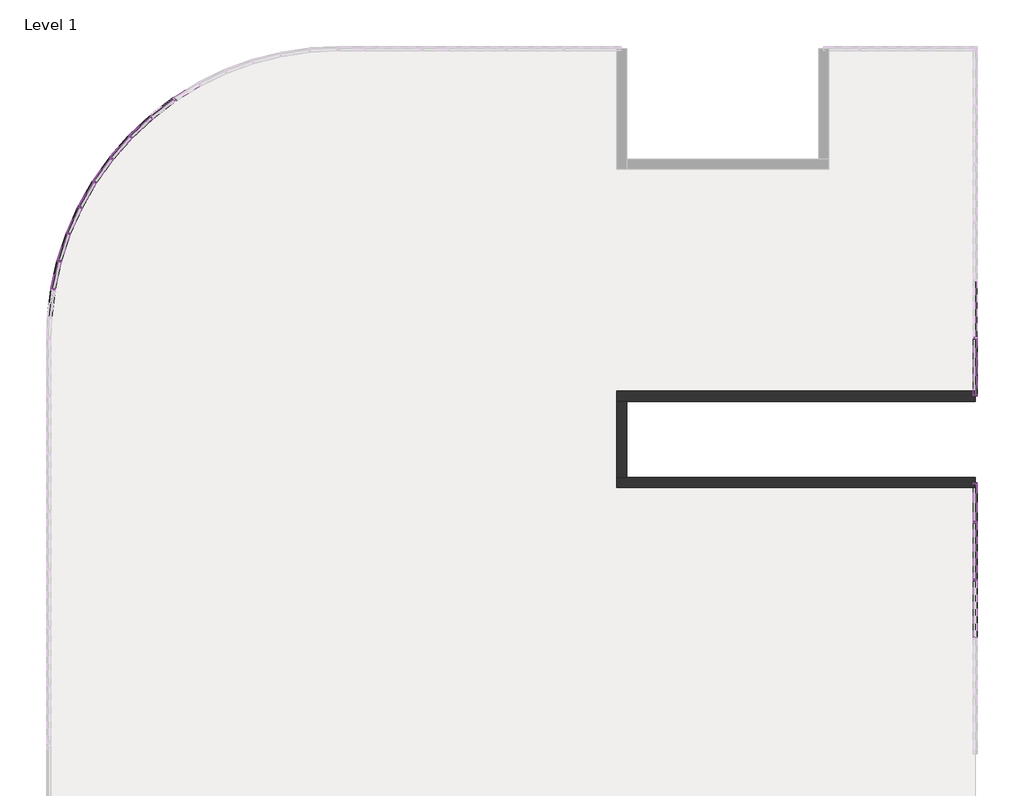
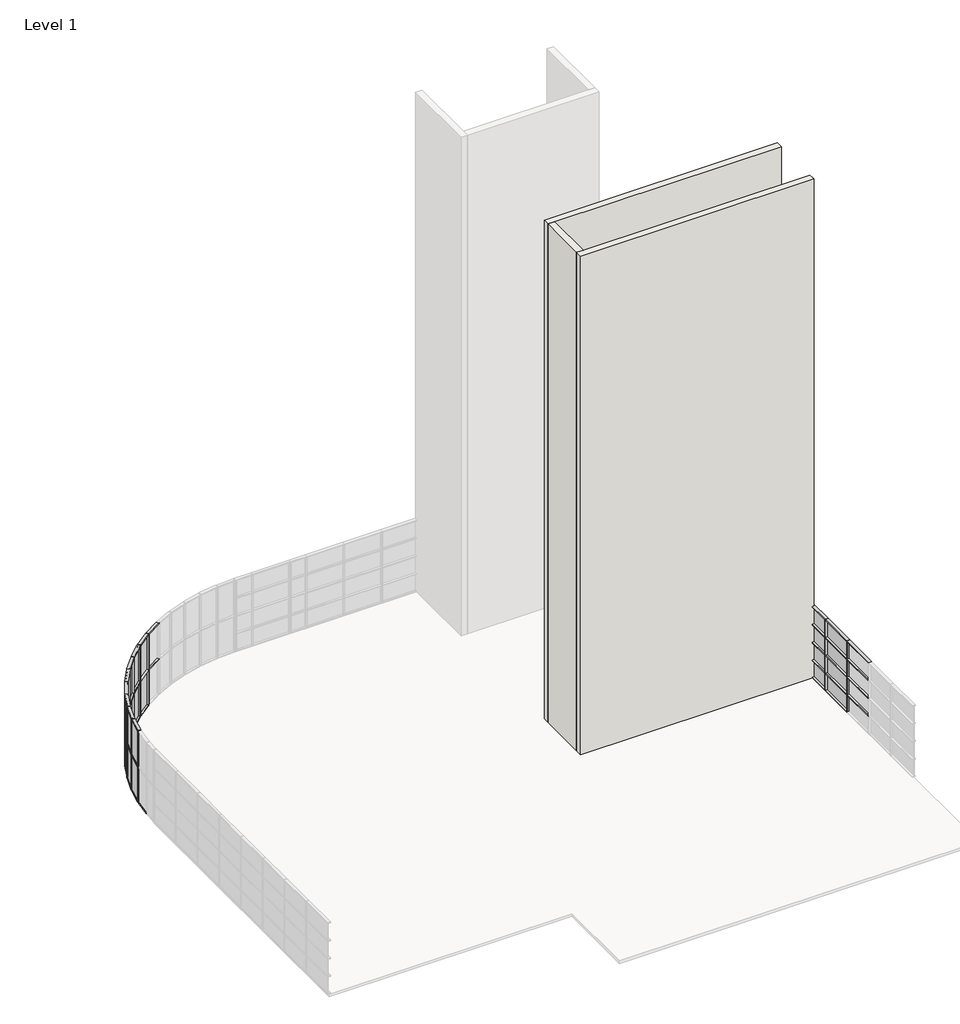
# One storey, part 4 of 6: 84 members, 32 plates, 3 walls.
"""IFC4 building model written with IfcOpenShell, lengths in millimetres."""

from ifc_helpers import new_model, si_unit, origin, origin_with_axes, place, context, project, spatial, polyline, outline, extrude, faceted_brep, transform, mapped, element, save
from components import rectangular_mullion_50_x_150mm_a053b0ca, rectangular_mullion_50_x_150mm_116cff39, rectangular_mullion_50_x_150mm_aa47fe12, rectangular_mullion_50_x_150mm_3a148f0f, rectangular_mullion_50_x_150mm_a91aaa2b, rectangular_mullion_50_x_150mm_12a430f9, rectangular_mullion_50_x_150mm_25f32059, rectangular_mullion_50_x_150mm_a54f4cf2, rectangular_mullion_50_x_150mm_5fc4eb71, rectangular_mullion_50_x_150mm_5a5a0db4, system_panel_glazed_92d57a36, system_panel_glazed_751a585c, system_panel_glazed_28c32ad2, system_panel_glazed_08de6f5f, system_panel_glazed_883c1928, system_panel_glazed_b9387e44, system_panel_glazed_42f259ca, system_panel_glazed_8ec8f306

model = new_model("IFC4")

# Units and contexts
model_context = context("Model", 3, world=origin())
ifc_project = project(units=[si_unit("LENGTHUNIT", "METRE", prefix="MILLI")], contexts=[model_context])

# Site, building, storey
site = spatial("IfcSite", under=ifc_project)
building = spatial("IfcBuilding", under=site)
storey = spatial("IfcBuildingStorey", under=building, Name="Level 1", Elevation=0.0)

# Members
placement = place(None, origin())
rectangular_mullion_50_x_150mm_shape = rectangular_mullion_50_x_150mm_a053b0ca(model_context)
element("IfcMember", 1, ObjectType="Rectangular Mullion : 50 x 150mm", at=placement, inside=storey, context=model_context, shape_type="MappedRepresentation", body=[
    mapped(rectangular_mullion_50_x_150mm_shape, transform((13503.2660975, -1624.0160434, 1025.0), x_axis=(0.0, 1.0, 0.0), y_axis=(1.0, 0.0, 0.0), z_axis=(0.0, 0.0, -0.9999999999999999))),
])
element("IfcMember", 2, ObjectType="Rectangular Mullion : 50 x 150mm", at=placement, inside=storey, context=model_context, shape_type="MappedRepresentation", body=[
    mapped(rectangular_mullion_50_x_150mm_shape, transform((13503.2660975, -1624.0160434, 2025.0), x_axis=(0.0, 1.0, 0.0), y_axis=(1.0, 0.0, 0.0), z_axis=(0.0, 0.0, -0.9999999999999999))),
])
element("IfcMember", 3, ObjectType="Rectangular Mullion : 50 x 150mm", at=placement, inside=storey, context=model_context, shape_type="MappedRepresentation", body=[
    mapped(rectangular_mullion_50_x_150mm_shape, transform((13503.2660975, -1624.0160434, 3025.0), x_axis=(0.0, 1.0, 0.0), y_axis=(1.0, 0.0, 0.0), z_axis=(0.0, 0.0, -1.0))),
])
element("IfcMember", 4, ObjectType="Rectangular Mullion : 50 x 150mm", at=placement, inside=storey, context=model_context, shape_type="MappedRepresentation", body=[
    mapped(rectangular_mullion_50_x_150mm_shape, transform((13503.2660975, -9988.7417365, 1025.0), x_axis=(0.0, 1.0, 0.0), y_axis=(1.0, 0.0, 0.0), z_axis=(0.0, 0.0, -0.9999999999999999))),
])
element("IfcMember", 5, ObjectType="Rectangular Mullion : 50 x 150mm", at=placement, inside=storey, context=model_context, shape_type="MappedRepresentation", body=[
    mapped(rectangular_mullion_50_x_150mm_shape, transform((13503.2660975, -9988.7417365, 2025.0), x_axis=(0.0, 1.0, 0.0), y_axis=(1.0, 0.0, 0.0), z_axis=(0.0, 0.0, -0.9999999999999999))),
])
element("IfcMember", 6, ObjectType="Rectangular Mullion : 50 x 150mm", at=placement, inside=storey, context=model_context, shape_type="MappedRepresentation", body=[
    mapped(rectangular_mullion_50_x_150mm_shape, transform((13503.2660975, -9988.7417365, 3025.0), x_axis=(0.0, 1.0, 0.0), y_axis=(1.0, 0.0, 0.0), z_axis=(0.0, 0.0, -1.0))),
])
element("IfcMember", 7, ObjectType="Rectangular Mullion : 50 x 150mm", at=placement, inside=storey, context=model_context, shape_type="MappedRepresentation", body=[
    mapped(rectangular_mullion_50_x_150mm_shape, transform((13503.2660975, -7988.7417365, 1025.0), x_axis=(0.0, 1.0, 0.0), y_axis=(1.0, 0.0, 0.0), z_axis=(0.0, 0.0, -0.9999999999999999))),
])
element("IfcMember", 8, ObjectType="Rectangular Mullion : 50 x 150mm", at=placement, inside=storey, context=model_context, shape_type="MappedRepresentation", body=[
    mapped(rectangular_mullion_50_x_150mm_shape, transform((13503.2660975, -7988.7417365, 2025.0), x_axis=(0.0, 1.0, 0.0), y_axis=(1.0, 0.0, 0.0), z_axis=(0.0, 0.0, -0.9999999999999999))),
])
element("IfcMember", 9, ObjectType="Rectangular Mullion : 50 x 150mm", at=placement, inside=storey, context=model_context, shape_type="MappedRepresentation", body=[
    mapped(rectangular_mullion_50_x_150mm_shape, transform((13503.2660975, -7988.7417365, 3025.0), x_axis=(0.0, 1.0, 0.0), y_axis=(1.0, 0.0, 0.0), z_axis=(0.0, 0.0, -0.9999999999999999))),
])
rectangular_mullion_50_x_150mm_2_shape = rectangular_mullion_50_x_150mm_116cff39(model_context)
element("IfcMember", 10, ObjectType="Rectangular Mullion : 50 x 150mm", at=placement, inside=storey, context=model_context, shape_type="MappedRepresentation", body=[
    mapped(rectangular_mullion_50_x_150mm_2_shape, transform((13503.2660975, -1624.0160434, 50.0), x_axis=(0.0, 1.0, 0.0), y_axis=(1.0, 0.0, 0.0), z_axis=(0.0, 0.0, -1.0))),
])
element("IfcMember", 11, ObjectType="Rectangular Mullion : 50 x 150mm", at=placement, inside=storey, context=model_context, shape_type="MappedRepresentation", body=[
    mapped(rectangular_mullion_50_x_150mm_2_shape, transform((13503.2660975, -9988.7417365, 50.0), x_axis=(0.0, 1.0, 0.0), y_axis=(1.0, 0.0, 0.0), z_axis=(0.0, 0.0, -1.0))),
])
element("IfcMember", 12, ObjectType="Rectangular Mullion : 50 x 150mm", at=placement, inside=storey, context=model_context, shape_type="MappedRepresentation", body=[
    mapped(rectangular_mullion_50_x_150mm_2_shape, transform((13503.2660975, -7988.7417365, 50.0), x_axis=(0.0, 1.0, 0.0), y_axis=(1.0, 0.0, 0.0), z_axis=(0.0, 0.0, -1.0))),
])
rectangular_mullion_50_x_150mm_3_shape = rectangular_mullion_50_x_150mm_aa47fe12(model_context)
element("IfcMember", 13, ObjectType="Rectangular Mullion : 50 x 150mm", at=placement, inside=storey, context=model_context, shape_type="MappedRepresentation", body=[
    mapped(rectangular_mullion_50_x_150mm_3_shape, transform((13503.2660975, -1624.0160434, 0.0), x_axis=(0.0, 0.0, -1.0), y_axis=(1.0, 0.0, 0.0), z_axis=(0.0, -0.9999999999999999, 0.0))),
])
element("IfcMember", 14, ObjectType="Rectangular Mullion : 50 x 150mm", at=placement, inside=storey, context=model_context, shape_type="MappedRepresentation", body=[
    mapped(rectangular_mullion_50_x_150mm_3_shape, transform((13503.2660975, -9988.7417365, 0.0), x_axis=(0.0, 0.0, -1.0), y_axis=(1.0, 0.0, 0.0), z_axis=(0.0, -1.0, 0.0))),
])
rectangular_mullion_50_x_150mm_4_shape = rectangular_mullion_50_x_150mm_3a148f0f(model_context)
element("IfcMember", 15, ObjectType="Rectangular Mullion : 50 x 150mm", at=placement, inside=storey, context=model_context, shape_type="MappedRepresentation", body=[
    mapped(rectangular_mullion_50_x_150mm_4_shape, transform((13503.2660975, -1624.0160434, 1000.0), x_axis=(0.0, 0.0, 1.0), y_axis=(1.0, 0.0, 0.0), z_axis=(0.0, 1.0, 0.0))),
])
element("IfcMember", 16, ObjectType="Rectangular Mullion : 50 x 150mm", at=placement, inside=storey, context=model_context, shape_type="MappedRepresentation", body=[
    mapped(rectangular_mullion_50_x_150mm_4_shape, transform((13503.2660975, -1624.0160434, 2000.0), x_axis=(0.0, 0.0, 1.0), y_axis=(1.0, 0.0, 0.0), z_axis=(0.0, 1.0, 0.0))),
])
element("IfcMember", 17, ObjectType="Rectangular Mullion : 50 x 150mm", at=placement, inside=storey, context=model_context, shape_type="MappedRepresentation", body=[
    mapped(rectangular_mullion_50_x_150mm_4_shape, transform((13503.2660975, -1624.0160434, 3000.0), x_axis=(0.0, 0.0, 1.0), y_axis=(1.0, 0.0, 0.0), z_axis=(0.0, 1.0, 0.0))),
])
element("IfcMember", 18, ObjectType="Rectangular Mullion : 50 x 150mm", at=placement, inside=storey, context=model_context, shape_type="MappedRepresentation", body=[
    mapped(rectangular_mullion_50_x_150mm_4_shape, transform((13503.2660975, -1624.0160434, 4000.0), x_axis=(0.0, 0.0, 1.0), y_axis=(1.0, 0.0, 0.0), z_axis=(0.0, 1.0, 0.0))),
])
element("IfcMember", 19, ObjectType="Rectangular Mullion : 50 x 150mm", at=placement, inside=storey, context=model_context, shape_type="MappedRepresentation", body=[
    mapped(rectangular_mullion_50_x_150mm_4_shape, transform((-14145.2241233, 6627.9266506, 2000.0), x_axis=(-0.8251942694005, -0.5648490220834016, 0.0), y_axis=(-0.5648490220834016, 0.8251942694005, 0.0), z_axis=(0.0, 0.0, -1.0))),
])
element("IfcMember", 20, ObjectType="Rectangular Mullion : 50 x 150mm", at=placement, inside=storey, context=model_context, shape_type="MappedRepresentation", body=[
    mapped(rectangular_mullion_50_x_150mm_4_shape, transform((-14941.1438033, 6022.5244181, 2000.0), x_axis=(-0.7646540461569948, -0.6444409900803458, 0.0), y_axis=(-0.6444409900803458, 0.7646540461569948, 0.0), z_axis=(0.0, 0.0, -1.0))),
])
element("IfcMember", 21, ObjectType="Rectangular Mullion : 50 x 150mm", at=placement, inside=storey, context=model_context, shape_type="MappedRepresentation", body=[
    mapped(rectangular_mullion_50_x_150mm_4_shape, transform((-15672.6193842, 5340.6567811, 2000.0), x_axis=(-0.6964672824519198, -0.7175885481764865, 0.0), y_axis=(-0.7175885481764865, 0.6964672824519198, 0.0), z_axis=(0.0, 0.0, -1.0))),
])
element("IfcMember", 22, ObjectType="Rectangular Mullion : 50 x 150mm", at=placement, inside=storey, context=model_context, shape_type="MappedRepresentation", body=[
    mapped(rectangular_mullion_50_x_150mm_4_shape, transform((-16332.3361104, 4589.1424158, 2000.0), x_axis=(-0.6213158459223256, -0.7835602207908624, 0.0), y_axis=(-0.7835602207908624, 0.6213158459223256, 0.0), z_axis=(0.0, 0.0, -1.0))),
])
element("IfcMember", 23, ObjectType="Rectangular Mullion : 50 x 150mm", at=placement, inside=storey, context=model_context, shape_type="MappedRepresentation", body=[
    mapped(rectangular_mullion_50_x_150mm_4_shape, transform((-16913.6968144, 3775.4964659, 2000.0), x_axis=(-0.539951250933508, -0.8416962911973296, 0.0), y_axis=(-0.8416962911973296, 0.539951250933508, 0.0), z_axis=(0.0, 0.0, -1.0))),
])
element("IfcMember", 24, ObjectType="Rectangular Mullion : 50 x 150mm", at=placement, inside=storey, context=model_context, shape_type="MappedRepresentation", body=[
    mapped(rectangular_mullion_50_x_150mm_4_shape, transform((-17410.8878894, 2907.8553909, 2000.0), x_axis=(-0.4531871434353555, -0.8914153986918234, 0.0), y_axis=(-0.8914153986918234, 0.4531871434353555, 0.0), z_axis=(0.0, 0.0, -1.0))),
])
element("IfcMember", 25, ObjectType="Rectangular Mullion : 50 x 150mm", at=placement, inside=storey, context=model_context, shape_type="MappedRepresentation", body=[
    mapped(rectangular_mullion_50_x_150mm_4_shape, transform((-17818.9374245, 1994.8956016, 2000.0), x_axis=(-0.3618911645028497, -0.9322203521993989, 0.0), y_axis=(-0.9322203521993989, 0.3618911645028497, 0.0), z_axis=(0.0, 0.0, -1.0))),
])
element("IfcMember", 26, ObjectType="Rectangular Mullion : 50 x 150mm", at=placement, inside=storey, context=model_context, shape_type="MappedRepresentation", body=[
    mapped(rectangular_mullion_50_x_150mm_4_shape, transform((-18133.7649243, 1045.7466958, 2000.0), x_axis=(-0.26697627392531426, -0.963703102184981, 0.0), y_axis=(-0.9637031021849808, 0.2669762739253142, 0.0), z_axis=(0.0, 0.0, -1.0))),
])
element("IfcMember", 27, ObjectType="Rectangular Mullion : 50 x 150mm", at=placement, inside=storey, context=model_context, shape_type="MappedRepresentation", body=[
    mapped(rectangular_mullion_50_x_150mm_4_shape, transform((-18352.222114, 69.9001627, 2000.0), x_axis=(-0.1693916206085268, -0.9855488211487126, 0.0), y_axis=(-0.9855488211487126, 0.1693916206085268, 0.0), z_axis=(0.0, 0.0, -1.0))),
])
element("IfcMember", 28, ObjectType="Rectangular Mullion : 50 x 150mm", at=placement, inside=storey, context=model_context, shape_type="MappedRepresentation", body=[
    mapped(rectangular_mullion_50_x_150mm_4_shape, transform((13503.2660975, -9988.7417365, 1000.0), x_axis=(0.0, 0.0, 1.0), y_axis=(1.0, 0.0, 0.0), z_axis=(0.0, 1.0, 0.0))),
])
element("IfcMember", 29, ObjectType="Rectangular Mullion : 50 x 150mm", at=placement, inside=storey, context=model_context, shape_type="MappedRepresentation", body=[
    mapped(rectangular_mullion_50_x_150mm_4_shape, transform((13503.2660975, -7988.7417365, 1000.0), x_axis=(0.0, 0.0, 1.0), y_axis=(1.0, 0.0, 0.0), z_axis=(0.0, 1.0, 0.0))),
])
element("IfcMember", 30, ObjectType="Rectangular Mullion : 50 x 150mm", at=placement, inside=storey, context=model_context, shape_type="MappedRepresentation", body=[
    mapped(rectangular_mullion_50_x_150mm_4_shape, transform((13503.2660975, -9988.7417365, 2000.0), x_axis=(0.0, 0.0, 1.0), y_axis=(1.0, 0.0, 0.0), z_axis=(0.0, 1.0, 0.0))),
])
element("IfcMember", 31, ObjectType="Rectangular Mullion : 50 x 150mm", at=placement, inside=storey, context=model_context, shape_type="MappedRepresentation", body=[
    mapped(rectangular_mullion_50_x_150mm_4_shape, transform((13503.2660975, -7988.7417365, 2000.0), x_axis=(0.0, 0.0, 1.0), y_axis=(1.0, 0.0, 0.0), z_axis=(0.0, 1.0, 0.0))),
])
element("IfcMember", 32, ObjectType="Rectangular Mullion : 50 x 150mm", at=placement, inside=storey, context=model_context, shape_type="MappedRepresentation", body=[
    mapped(rectangular_mullion_50_x_150mm_4_shape, transform((13503.2660975, -9988.7417365, 3000.0), x_axis=(0.0, 0.0, 1.0), y_axis=(1.0, 0.0, 0.0), z_axis=(0.0, 1.0, 0.0))),
])
element("IfcMember", 33, ObjectType="Rectangular Mullion : 50 x 150mm", at=placement, inside=storey, context=model_context, shape_type="MappedRepresentation", body=[
    mapped(rectangular_mullion_50_x_150mm_4_shape, transform((13503.2660975, -7988.7417365, 3000.0), x_axis=(0.0, 0.0, 1.0), y_axis=(1.0, 0.0, 0.0), z_axis=(0.0, 1.0, 0.0))),
])
element("IfcMember", 34, ObjectType="Rectangular Mullion : 50 x 150mm", at=placement, inside=storey, context=model_context, shape_type="MappedRepresentation", body=[
    mapped(rectangular_mullion_50_x_150mm_4_shape, transform((13503.2660975, -9988.7417365, 4000.0), x_axis=(0.0, 0.0, 1.0), y_axis=(1.0, 0.0, 0.0), z_axis=(0.0, 1.0, 0.0))),
])
element("IfcMember", 35, ObjectType="Rectangular Mullion : 50 x 150mm", at=placement, inside=storey, context=model_context, shape_type="MappedRepresentation", body=[
    mapped(rectangular_mullion_50_x_150mm_4_shape, transform((13503.2660975, -7988.7417365, 4000.0), x_axis=(0.0, 0.0, 1.0), y_axis=(1.0, 0.0, 0.0), z_axis=(0.0, 1.0, 0.0))),
])
element("IfcMember", 36, ObjectType="Rectangular Mullion : 50 x 150mm", at=placement, inside=storey, context=model_context, shape_type="MappedRepresentation", body=[
    mapped(rectangular_mullion_50_x_150mm_3_shape, transform((13503.2660975, -3624.0160434, 0.0), x_axis=(0.0, 0.0, -1.0), y_axis=(1.0, 0.0, 0.0), z_axis=(0.0, -1.0, 0.0))),
])
rectangular_mullion_50_x_150mm_5_shape = rectangular_mullion_50_x_150mm_a91aaa2b(model_context)
element("IfcMember", 37, ObjectType="Rectangular Mullion : 50 x 150mm", at=placement, inside=storey, context=model_context, shape_type="MappedRepresentation", body=[
    mapped(rectangular_mullion_50_x_150mm_5_shape, transform((13503.2660975, -3624.0160434, 975.0), x_axis=(0.0, -1.0, 0.0), y_axis=(1.0, 0.0, 0.0), z_axis=(0.0, 0.0, 1.0))),
])
rectangular_mullion_50_x_150mm_6_shape = rectangular_mullion_50_x_150mm_12a430f9(model_context)
element("IfcMember", 38, ObjectType="Rectangular Mullion : 50 x 150mm", at=placement, inside=storey, context=model_context, shape_type="MappedRepresentation", body=[
    mapped(rectangular_mullion_50_x_150mm_6_shape, transform((13503.2660975, -3624.0160434, 1975.0), x_axis=(0.0, -1.0, 0.0), y_axis=(1.0, 0.0, 0.0), z_axis=(0.0, 0.0, 0.9999999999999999))),
])
element("IfcMember", 39, ObjectType="Rectangular Mullion : 50 x 150mm", at=placement, inside=storey, context=model_context, shape_type="MappedRepresentation", body=[
    mapped(rectangular_mullion_50_x_150mm_6_shape, transform((13503.2660975, -3624.0160434, 2975.0), x_axis=(0.0, -1.0, 0.0), y_axis=(1.0, 0.0, 0.0), z_axis=(0.0, 0.0, 0.9999999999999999))),
])
element("IfcMember", 40, ObjectType="Rectangular Mullion : 50 x 150mm", at=placement, inside=storey, context=model_context, shape_type="MappedRepresentation", body=[
    mapped(rectangular_mullion_50_x_150mm_6_shape, transform((13503.2660975, -3624.0160434, 3975.0), x_axis=(0.0, -1.0, 0.0), y_axis=(1.0, 0.0, 0.0), z_axis=(0.0, 0.0, 1.0))),
])
element("IfcMember", 41, ObjectType="Rectangular Mullion : 50 x 150mm", at=placement, inside=storey, context=model_context, shape_type="MappedRepresentation", body=[
    mapped(rectangular_mullion_50_x_150mm_6_shape, transform((13503.2660975, -6624.0160434, 1025.0), x_axis=(0.0, 1.0, 0.0), y_axis=(1.0, 0.0, 0.0), z_axis=(0.0, 0.0, -0.9999999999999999))),
])
element("IfcMember", 42, ObjectType="Rectangular Mullion : 50 x 150mm", at=placement, inside=storey, context=model_context, shape_type="MappedRepresentation", body=[
    mapped(rectangular_mullion_50_x_150mm_6_shape, transform((13503.2660975, -6624.0160434, 2025.0), x_axis=(0.0, 1.0, 0.0), y_axis=(1.0, 0.0, 0.0), z_axis=(0.0, 0.0, -0.9999999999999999))),
])
element("IfcMember", 43, ObjectType="Rectangular Mullion : 50 x 150mm", at=placement, inside=storey, context=model_context, shape_type="MappedRepresentation", body=[
    mapped(rectangular_mullion_50_x_150mm_6_shape, transform((13503.2660975, -6624.0160434, 3025.0), x_axis=(0.0, 1.0, 0.0), y_axis=(1.0, 0.0, 0.0), z_axis=(0.0, 0.0, -1.0))),
])
element("IfcMember", 44, ObjectType="Rectangular Mullion : 50 x 150mm", at=placement, inside=storey, context=model_context, shape_type="MappedRepresentation", body=[
    mapped(rectangular_mullion_50_x_150mm_5_shape, transform((13503.2660975, -6624.0160434, 50.0), x_axis=(0.0, 1.0, 0.0), y_axis=(1.0, 0.0, 0.0), z_axis=(0.0, 0.0, -1.0))),
])
element("IfcMember", 45, ObjectType="Rectangular Mullion : 50 x 150mm", at=placement, inside=storey, context=model_context, shape_type="MappedRepresentation", body=[
    mapped(rectangular_mullion_50_x_150mm_4_shape, transform((-14145.2241233, 6627.9266506, 0.0), x_axis=(-0.8251942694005, -0.5648490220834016, 0.0), y_axis=(-0.5648490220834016, 0.8251942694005, 0.0), z_axis=(0.0, 0.0, -1.0))),
])
element("IfcMember", 46, ObjectType="Rectangular Mullion : 50 x 150mm", at=placement, inside=storey, context=model_context, shape_type="MappedRepresentation", body=[
    mapped(rectangular_mullion_50_x_150mm_4_shape, transform((-14941.1438033, 6022.5244181, 0.0), x_axis=(-0.7646540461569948, -0.6444409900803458, 0.0), y_axis=(-0.6444409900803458, 0.7646540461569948, 0.0), z_axis=(0.0, 0.0, -1.0))),
])
element("IfcMember", 47, ObjectType="Rectangular Mullion : 50 x 150mm", at=placement, inside=storey, context=model_context, shape_type="MappedRepresentation", body=[
    mapped(rectangular_mullion_50_x_150mm_4_shape, transform((-15672.6193842, 5340.6567811, 0.0), x_axis=(-0.6964672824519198, -0.7175885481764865, 0.0), y_axis=(-0.7175885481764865, 0.6964672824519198, 0.0), z_axis=(0.0, 0.0, -1.0))),
])
element("IfcMember", 48, ObjectType="Rectangular Mullion : 50 x 150mm", at=placement, inside=storey, context=model_context, shape_type="MappedRepresentation", body=[
    mapped(rectangular_mullion_50_x_150mm_4_shape, transform((-16332.3361104, 4589.1424158, 0.0), x_axis=(-0.6213158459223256, -0.7835602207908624, 0.0), y_axis=(-0.7835602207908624, 0.6213158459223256, 0.0), z_axis=(0.0, 0.0, -1.0))),
])
element("IfcMember", 49, ObjectType="Rectangular Mullion : 50 x 150mm", at=placement, inside=storey, context=model_context, shape_type="MappedRepresentation", body=[
    mapped(rectangular_mullion_50_x_150mm_4_shape, transform((-16913.6968144, 3775.4964659, 0.0), x_axis=(-0.539951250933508, -0.8416962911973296, 0.0), y_axis=(-0.8416962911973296, 0.539951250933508, 0.0), z_axis=(0.0, 0.0, -1.0))),
])
element("IfcMember", 50, ObjectType="Rectangular Mullion : 50 x 150mm", at=placement, inside=storey, context=model_context, shape_type="MappedRepresentation", body=[
    mapped(rectangular_mullion_50_x_150mm_4_shape, transform((-17410.8878894, 2907.8553909, 0.0), x_axis=(-0.4531871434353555, -0.8914153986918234, 0.0), y_axis=(-0.8914153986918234, 0.4531871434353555, 0.0), z_axis=(0.0, 0.0, -1.0))),
])
element("IfcMember", 51, ObjectType="Rectangular Mullion : 50 x 150mm", at=placement, inside=storey, context=model_context, shape_type="MappedRepresentation", body=[
    mapped(rectangular_mullion_50_x_150mm_4_shape, transform((-17818.9374245, 1994.8956016, 0.0), x_axis=(-0.3618911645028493, -0.932220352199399, 0.0), y_axis=(-0.932220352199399, 0.3618911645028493, 0.0), z_axis=(0.0, 0.0, -1.0))),
])
element("IfcMember", 52, ObjectType="Rectangular Mullion : 50 x 150mm", at=placement, inside=storey, context=model_context, shape_type="MappedRepresentation", body=[
    mapped(rectangular_mullion_50_x_150mm_4_shape, transform((-18133.7649243, 1045.7466958, 0.0), x_axis=(-0.2669762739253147, -0.9637031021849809, 0.0), y_axis=(-0.9637031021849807, 0.26697627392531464, 0.0), z_axis=(0.0, 0.0, -1.0))),
])
element("IfcMember", 53, ObjectType="Rectangular Mullion : 50 x 150mm", at=placement, inside=storey, context=model_context, shape_type="MappedRepresentation", body=[
    mapped(rectangular_mullion_50_x_150mm_4_shape, transform((-18352.222114, 69.9001627, 0.0), x_axis=(-0.1693916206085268, -0.9855488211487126, 0.0), y_axis=(-0.9855488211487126, 0.1693916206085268, 0.0), z_axis=(0.0, 0.0, -1.0))),
])
rectangular_mullion_50_x_150mm_7_shape = rectangular_mullion_50_x_150mm_25f32059(model_context)
element("IfcMember", 54, ObjectType="Rectangular Mullion : 50 x 150mm", at=placement, inside=storey, context=model_context, shape_type="MappedRepresentation", body=[
    mapped(rectangular_mullion_50_x_150mm_7_shape, transform((-18346.7606842, 94.296326, 4000.0), x_axis=(0.0, 0.0, 0.9999999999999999), y_axis=(-0.9758465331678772, 0.21845718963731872, 0.0), z_axis=(-0.2184571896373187, -0.9758465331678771, 0.0))),
])
element("IfcMember", 55, ObjectType="Rectangular Mullion : 50 x 150mm", at=placement, inside=storey, context=model_context, shape_type="MappedRepresentation", body=[
    mapped(rectangular_mullion_50_x_150mm_7_shape, transform((-14123.9140088, 6640.9987207, 4000.0), x_axis=(0.0, 0.0, 1.0), y_axis=(-0.5228828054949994, 0.8524045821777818, 0.0), z_axis=(-0.8524045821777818, -0.5228828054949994, 0.0))),
])
element("IfcMember", 56, ObjectType="Rectangular Mullion : 50 x 150mm", at=placement, inside=storey, context=model_context, shape_type="MappedRepresentation", body=[
    mapped(rectangular_mullion_50_x_150mm_7_shape, transform((-14921.2458113, 6037.6594739, 4000.0), x_axis=(0.0, 0.0, 1.0), y_axis=(-0.6054022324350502, 0.795919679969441, 0.0), z_axis=(-0.795919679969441, -0.6054022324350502, 0.0))),
])
element("IfcMember", 57, ObjectType="Rectangular Mullion : 50 x 150mm", at=placement, inside=storey, context=model_context, shape_type="MappedRepresentation", body=[
    mapped(rectangular_mullion_50_x_150mm_7_shape, transform((-15654.3324947, 5357.703472, 4000.0), x_axis=(0.0, 0.0, 1.0), y_axis=(-0.6818676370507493, 0.731475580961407, 0.0), z_axis=(-0.731475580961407, -0.6818676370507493, 0.0))),
])
element("IfcMember", 58, ObjectType="Rectangular Mullion : 50 x 150mm", at=placement, inside=storey, context=model_context, shape_type="MappedRepresentation", body=[
    mapped(rectangular_mullion_50_x_150mm_7_shape, transform((-16315.8431922, 4607.9302749, 4000.0), x_axis=(0.0, 0.0, 1.0), y_axis=(-0.7515143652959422, 0.6597167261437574, 0.0), z_axis=(-0.6597167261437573, -0.751514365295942, 0.0))),
])
element("IfcMember", 59, ObjectType="Rectangular Mullion : 50 x 150mm", at=placement, inside=storey, context=model_context, shape_type="MappedRepresentation", body=[
    mapped(rectangular_mullion_50_x_150mm_7_shape, transform((-16899.1627968, 3795.8376146, 4000.0), x_axis=(0.0, 0.0, 1.0), y_axis=(-0.8136459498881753, 0.5813607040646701, 0.0), z_axis=(-0.5813607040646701, -0.8136459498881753, 0.0))),
])
element("IfcMember", 60, ObjectType="Rectangular Mullion : 50 x 150mm", at=placement, inside=storey, context=model_context, shape_type="MappedRepresentation", body=[
    mapped(rectangular_mullion_50_x_150mm_7_shape, transform((-17398.4581125, 2929.5464178, 4000.0), x_axis=(0.0, 0.0, 0.9999999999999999), y_axis=(-0.8676410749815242, 0.49719107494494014, 0.0), z_axis=(-0.4971910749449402, -0.8676410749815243, 0.0))),
])
element("IfcMember", 61, ObjectType="Rectangular Mullion : 50 x 150mm", at=placement, inside=storey, context=model_context, shape_type="MappedRepresentation", body=[
    mapped(rectangular_mullion_50_x_150mm_7_shape, transform((-17808.7361861, 2017.7195963, 4000.0), x_axis=(0.0, 0.0, 0.9999999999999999), y_axis=(-0.9129597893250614, 0.40804953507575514, 0.0), z_axis=(-0.4080495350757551, -0.9129597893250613, 0.0))),
])
element("IfcMember", 62, ObjectType="Rectangular Mullion : 50 x 150mm", at=placement, inside=storey, context=model_context, shape_type="MappedRepresentation", body=[
    mapped(rectangular_mullion_50_x_150mm_7_shape, transform((-18125.8942368, 1069.4754185, 4000.0), x_axis=(0.0, 0.0, 1.0), y_axis=(-0.9491489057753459, 0.31482749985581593, 0.0), z_axis=(-0.3148274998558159, -0.9491489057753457, 0.0))),
])
element("IfcMember", 63, ObjectType="Rectangular Mullion : 50 x 150mm", at=placement, inside=storey, context=model_context, shape_type="MappedRepresentation", body=[
    mapped(rectangular_mullion_50_x_150mm_7_shape, transform((-16899.1627968, 3795.8376146, 2000.0), x_axis=(0.0, 0.0, 1.0), y_axis=(-0.8136459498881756, 0.5813607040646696, 0.0), z_axis=(-0.5813607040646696, -0.8136459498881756, 0.0))),
])
element("IfcMember", 64, ObjectType="Rectangular Mullion : 50 x 150mm", at=placement, inside=storey, context=model_context, shape_type="MappedRepresentation", body=[
    mapped(rectangular_mullion_50_x_150mm_7_shape, transform((-17398.4581125, 2929.5464178, 2000.0), x_axis=(0.0, 0.0, 0.9999999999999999), y_axis=(-0.8676410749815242, 0.49719107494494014, 0.0), z_axis=(-0.4971910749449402, -0.8676410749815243, 0.0))),
])
element("IfcMember", 65, ObjectType="Rectangular Mullion : 50 x 150mm", at=placement, inside=storey, context=model_context, shape_type="MappedRepresentation", body=[
    mapped(rectangular_mullion_50_x_150mm_7_shape, transform((-17808.7361861, 2017.7195963, 2000.0), x_axis=(0.0, 0.0, 0.9999999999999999), y_axis=(-0.9129597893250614, 0.40804953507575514, 0.0), z_axis=(-0.4080495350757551, -0.9129597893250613, 0.0))),
])
element("IfcMember", 66, ObjectType="Rectangular Mullion : 50 x 150mm", at=placement, inside=storey, context=model_context, shape_type="MappedRepresentation", body=[
    mapped(rectangular_mullion_50_x_150mm_7_shape, transform((-18125.8942368, 1069.4754185, 2000.0), x_axis=(0.0, 0.0, 1.0), y_axis=(-0.9491489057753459, 0.31482749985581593, 0.0), z_axis=(-0.3148274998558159, -0.9491489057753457, 0.0))),
])
element("IfcMember", 67, ObjectType="Rectangular Mullion : 50 x 150mm", at=placement, inside=storey, context=model_context, shape_type="MappedRepresentation", body=[
    mapped(rectangular_mullion_50_x_150mm_7_shape, transform((-18346.7606842, 94.296326, 2000.0), x_axis=(0.0, 0.0, 0.9999999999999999), y_axis=(-0.9758465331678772, 0.21845718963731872, 0.0), z_axis=(-0.2184571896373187, -0.9758465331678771, 0.0))),
])
element("IfcMember", 68, ObjectType="Rectangular Mullion : 50 x 150mm", at=placement, inside=storey, context=model_context, shape_type="MappedRepresentation", body=[
    mapped(rectangular_mullion_50_x_150mm_7_shape, transform((-14123.9140088, 6640.9987207, 2000.0), x_axis=(0.0, 0.0, 1.0), y_axis=(-0.5228828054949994, 0.8524045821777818, 0.0), z_axis=(-0.8524045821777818, -0.5228828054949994, 0.0))),
])
element("IfcMember", 69, ObjectType="Rectangular Mullion : 50 x 150mm", at=placement, inside=storey, context=model_context, shape_type="MappedRepresentation", body=[
    mapped(rectangular_mullion_50_x_150mm_7_shape, transform((-15654.3324947, 5357.703472, 2000.0), x_axis=(0.0, 0.0, 1.0), y_axis=(-0.6818676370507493, 0.731475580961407, 0.0), z_axis=(-0.731475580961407, -0.6818676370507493, 0.0))),
])
element("IfcMember", 70, ObjectType="Rectangular Mullion : 50 x 150mm", at=placement, inside=storey, context=model_context, shape_type="MappedRepresentation", body=[
    mapped(rectangular_mullion_50_x_150mm_7_shape, transform((-16315.8431922, 4607.9302749, 2000.0), x_axis=(0.0, 0.0, 1.0), y_axis=(-0.7515143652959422, 0.6597167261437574, 0.0), z_axis=(-0.6597167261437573, -0.751514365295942, 0.0))),
])
rectangular_mullion_50_x_150mm_8_shape = rectangular_mullion_50_x_150mm_a54f4cf2(model_context)
element("IfcMember", 71, ObjectType="Rectangular Mullion : 50 x 150mm", at=placement, inside=storey, context=model_context, shape_type="MappedRepresentation", body=[
    mapped(rectangular_mullion_50_x_150mm_8_shape, transform((-14165.1221153, 6612.7915948, 0.0), x_axis=(0.0, 0.0, -1.0), y_axis=(-0.6054022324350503, 0.7959196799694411, 0.0), z_axis=(0.7959196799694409, 0.6054022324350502, 0.0))),
])
element("IfcMember", 72, ObjectType="Rectangular Mullion : 50 x 150mm", at=placement, inside=storey, context=model_context, shape_type="MappedRepresentation", body=[
    mapped(rectangular_mullion_50_x_150mm_8_shape, transform((-14959.4306928, 6005.4777272, 0.0), x_axis=(0.0, 0.0, -1.0), y_axis=(-0.6818676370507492, 0.7314755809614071, 0.0), z_axis=(0.731475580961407, 0.681867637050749, 0.0))),
])
element("IfcMember", 73, ObjectType="Rectangular Mullion : 50 x 150mm", at=placement, inside=storey, context=model_context, shape_type="MappedRepresentation", body=[
    mapped(rectangular_mullion_50_x_150mm_8_shape, transform((-15689.1123024, 5321.868922, 0.0), x_axis=(0.0, 0.0, -1.0), y_axis=(-0.7515143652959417, 0.6597167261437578, 0.0), z_axis=(0.6597167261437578, 0.7515143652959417, 0.0))),
])
element("IfcMember", 74, ObjectType="Rectangular Mullion : 50 x 150mm", at=placement, inside=storey, context=model_context, shape_type="MappedRepresentation", body=[
    mapped(rectangular_mullion_50_x_150mm_8_shape, transform((-16346.870128, 4568.801267, 0.0), x_axis=(0.0, 0.0, -1.0), y_axis=(-0.8136459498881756, 0.58136070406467, 0.0), z_axis=(0.5813607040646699, 0.8136459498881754, 0.0))),
])
element("IfcMember", 75, ObjectType="Rectangular Mullion : 50 x 150mm", at=placement, inside=storey, context=model_context, shape_type="MappedRepresentation", body=[
    mapped(rectangular_mullion_50_x_150mm_8_shape, transform((-16926.1265913, 3753.805439, 0.0), x_axis=(0.0, 0.0, -1.0), y_axis=(-0.8676410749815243, 0.4971910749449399, 0.0), z_axis=(0.4971910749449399, 0.8676410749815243, 0.0))),
])
element("IfcMember", 76, ObjectType="Rectangular Mullion : 50 x 150mm", at=placement, inside=storey, context=model_context, shape_type="MappedRepresentation", body=[
    mapped(rectangular_mullion_50_x_150mm_8_shape, transform((-17421.0891278, 2885.0313962, 0.0), x_axis=(0.0, 0.0, -1.0), y_axis=(-0.9129597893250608, 0.4080495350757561, 0.0), z_axis=(0.4080495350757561, 0.9129597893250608, 0.0))),
])
element("IfcMember", 77, ObjectType="Rectangular Mullion : 50 x 150mm", at=placement, inside=storey, context=model_context, shape_type="MappedRepresentation", body=[
    mapped(rectangular_mullion_50_x_150mm_8_shape, transform((-17826.808112, 1971.166879, 0.0), x_axis=(0.0, 0.0, -1.0), y_axis=(-0.9491489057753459, 0.3148274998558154, 0.0), z_axis=(0.3148274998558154, 0.9491489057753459, 0.0))),
])
element("IfcMember", 78, ObjectType="Rectangular Mullion : 50 x 150mm", at=placement, inside=storey, context=model_context, shape_type="MappedRepresentation", body=[
    mapped(rectangular_mullion_50_x_150mm_8_shape, transform((-18139.2263541, 1021.3505325, 0.0), x_axis=(0.0, 0.0, -1.0), y_axis=(-0.9758465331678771, 0.21845718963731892, 0.0), z_axis=(0.21845718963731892, 0.9758465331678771, 0.0))),
])
element("IfcMember", 79, ObjectType="Rectangular Mullion : 50 x 150mm", at=placement, inside=storey, context=model_context, shape_type="MappedRepresentation", body=[
    mapped(rectangular_mullion_50_x_150mm_8_shape, transform((-18355.2196717, 45.0805203, 0.0), x_axis=(0.0, 0.0, -1.0), y_axis=(-0.9927856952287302, 0.11990230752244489, 0.0), z_axis=(0.11990230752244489, 0.9927856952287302, 0.0))),
])
rectangular_mullion_50_x_150mm_9_shape = rectangular_mullion_50_x_150mm_5fc4eb71(model_context)
element("IfcMember", 80, ObjectType="Rectangular Mullion : 50 x 150mm", at=placement, inside=storey, context=model_context, shape_type="MappedRepresentation", body=[
    mapped(rectangular_mullion_50_x_150mm_9_shape, transform((13503.2660975, -6624.0160434, 1000.0), x_axis=(0.0, 0.0, 1.0), y_axis=(1.0, 0.0, 0.0), z_axis=(0.0, 1.0, 0.0))),
])
element("IfcMember", 81, ObjectType="Rectangular Mullion : 50 x 150mm", at=placement, inside=storey, context=model_context, shape_type="MappedRepresentation", body=[
    mapped(rectangular_mullion_50_x_150mm_9_shape, transform((13503.2660975, -6624.0160434, 2000.0), x_axis=(0.0, 0.0, 1.0), y_axis=(1.0, 0.0, 0.0), z_axis=(0.0, 1.0, 0.0))),
])
element("IfcMember", 82, ObjectType="Rectangular Mullion : 50 x 150mm", at=placement, inside=storey, context=model_context, shape_type="MappedRepresentation", body=[
    mapped(rectangular_mullion_50_x_150mm_9_shape, transform((13503.2660975, -6624.0160434, 3000.0), x_axis=(0.0, 0.0, 1.0), y_axis=(1.0, 0.0, 0.0), z_axis=(0.0, 1.0, 0.0))),
])
element("IfcMember", 83, ObjectType="Rectangular Mullion : 50 x 150mm", at=placement, inside=storey, context=model_context, shape_type="MappedRepresentation", body=[
    mapped(rectangular_mullion_50_x_150mm_9_shape, transform((13503.2660975, -6624.0160434, 4000.0), x_axis=(0.0, 0.0, 1.0), y_axis=(1.0, 0.0, 0.0), z_axis=(0.0, 1.0, 0.0))),
])
rectangular_mullion_50_x_150mm_10_shape = rectangular_mullion_50_x_150mm_5a5a0db4(model_context)
element("IfcMember", 84, ObjectType="Rectangular Mullion : 50 x 150mm", at=placement, inside=storey, context=model_context, shape_type="MappedRepresentation", body=[
    mapped(rectangular_mullion_50_x_150mm_10_shape, transform((13503.2660975, -7988.7417365, 0.0), x_axis=(0.0, 0.0, -1.0), y_axis=(1.0, 0.0, 0.0), z_axis=(0.0, -1.0, 0.0))),
])

# Plates
system_panel_glazed_shape = system_panel_glazed_92d57a36(model_context)
element("IfcPlate", 85, ObjectType="System Panel : Glazed", at=placement, inside=storey, context=model_context, shape_type="MappedRepresentation", body=[
    mapped(system_panel_glazed_shape, transform((13503.2660975, -3574.0160434, 512.5), x_axis=(0.0, 0.0, 1.0), y_axis=(1.0, 0.0, 0.0), z_axis=(0.0, 1.0, 0.0))),
])
system_panel_glazed_2_shape = system_panel_glazed_751a585c(model_context)
element("IfcPlate", 86, ObjectType="System Panel : Glazed", at=placement, inside=storey, context=model_context, shape_type="MappedRepresentation", body=[
    mapped(system_panel_glazed_2_shape, transform((13503.2660975, -3574.0160434, 1500.0), x_axis=(0.0, 0.0, 1.0), y_axis=(1.0, 0.0, 0.0), z_axis=(0.0, 1.0, 0.0))),
])
element("IfcPlate", 87, ObjectType="System Panel : Glazed", at=placement, inside=storey, context=model_context, shape_type="MappedRepresentation", body=[
    mapped(system_panel_glazed_2_shape, transform((13503.2660975, -3574.0160434, 2500.0), x_axis=(0.0, 0.0, 1.0), y_axis=(1.0, 0.0, 0.0), z_axis=(0.0, 1.0, 0.0))),
])
element("IfcPlate", 88, ObjectType="System Panel : Glazed", at=placement, inside=storey, context=model_context, shape_type="MappedRepresentation", body=[
    mapped(system_panel_glazed_2_shape, transform((13503.2660975, -3574.0160434, 3500.0), x_axis=(0.0, 0.0, 1.0), y_axis=(1.0, 0.0, 0.0), z_axis=(0.0, 1.0, 0.0))),
])
system_panel_glazed_3_shape = system_panel_glazed_28c32ad2(model_context)
element("IfcPlate", 89, ObjectType="System Panel : Glazed", at=placement, inside=storey, context=model_context, shape_type="MappedRepresentation", body=[
    mapped(system_panel_glazed_3_shape, transform((13503.2660975, -9963.7417365, 512.5), x_axis=(0.0, 0.0, 1.0), y_axis=(1.0, 0.0, 0.0), z_axis=(0.0, 1.0, 0.0))),
])
element("IfcPlate", 90, ObjectType="System Panel : Glazed", at=placement, inside=storey, context=model_context, shape_type="MappedRepresentation", body=[
    mapped(system_panel_glazed_3_shape, transform((13503.2660975, -1599.0160434, 512.5), x_axis=(0.0, 0.0, 1.0), y_axis=(1.0, 0.0, 0.0), z_axis=(0.0, 1.0, 0.0))),
])
system_panel_glazed_4_shape = system_panel_glazed_08de6f5f(model_context)
element("IfcPlate", 91, ObjectType="System Panel : Glazed", at=placement, inside=storey, context=model_context, shape_type="MappedRepresentation", body=[
    mapped(system_panel_glazed_4_shape, transform((13503.2660975, -9963.7417365, 1500.0), x_axis=(0.0, 0.0, 1.0), y_axis=(1.0, 0.0, 0.0), z_axis=(0.0, 1.0, 0.0))),
])
element("IfcPlate", 92, ObjectType="System Panel : Glazed", at=placement, inside=storey, context=model_context, shape_type="MappedRepresentation", body=[
    mapped(system_panel_glazed_4_shape, transform((13503.2660975, -9963.7417365, 2500.0), x_axis=(0.0, 0.0, 1.0), y_axis=(1.0, 0.0, 0.0), z_axis=(0.0, 1.0, 0.0))),
])
element("IfcPlate", 93, ObjectType="System Panel : Glazed", at=placement, inside=storey, context=model_context, shape_type="MappedRepresentation", body=[
    mapped(system_panel_glazed_4_shape, transform((13503.2660975, -9963.7417365, 3500.0), x_axis=(0.0, 0.0, 1.0), y_axis=(1.0, 0.0, 0.0), z_axis=(0.0, 1.0, 0.0))),
])
element("IfcPlate", 94, ObjectType="System Panel : Glazed", at=placement, inside=storey, context=model_context, shape_type="MappedRepresentation", body=[
    mapped(system_panel_glazed_4_shape, transform((13503.2660975, -1599.0160434, 1500.0), x_axis=(0.0, 0.0, 1.0), y_axis=(1.0, 0.0, 0.0), z_axis=(0.0, 1.0, 0.0))),
])
element("IfcPlate", 95, ObjectType="System Panel : Glazed", at=placement, inside=storey, context=model_context, shape_type="MappedRepresentation", body=[
    mapped(system_panel_glazed_4_shape, transform((13503.2660975, -1599.0160434, 2500.0), x_axis=(0.0, 0.0, 1.0), y_axis=(1.0, 0.0, 0.0), z_axis=(0.0, 1.0, 0.0))),
])
element("IfcPlate", 96, ObjectType="System Panel : Glazed", at=placement, inside=storey, context=model_context, shape_type="MappedRepresentation", body=[
    mapped(system_panel_glazed_4_shape, transform((13503.2660975, -1599.0160434, 3500.0), x_axis=(0.0, 0.0, 1.0), y_axis=(1.0, 0.0, 0.0), z_axis=(0.0, 1.0, 0.0))),
])
system_panel_glazed_5_shape = system_panel_glazed_883c1928(model_context)
element("IfcPlate", 97, ObjectType="System Panel : Glazed", at=placement, inside=storey, context=model_context, shape_type="MappedRepresentation", body=[
    mapped(system_panel_glazed_5_shape, transform((-14543.1839633, 6325.2255344, 50.0), x_axis=(-0.7959196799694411, -0.6054022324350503, 0.0), y_axis=(0.6054022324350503, -0.7959196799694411, 0.0), z_axis=(0.0, 0.0, 1.0))),
])
element("IfcPlate", 98, ObjectType="System Panel : Glazed", at=placement, inside=storey, context=model_context, shape_type="MappedRepresentation", body=[
    mapped(system_panel_glazed_5_shape, transform((-15306.8815938, 5681.5905996, 50.0), x_axis=(-0.731475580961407, -0.6818676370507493, 0.0), y_axis=(0.6818676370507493, -0.731475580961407, 0.0), z_axis=(0.0, 0.0, 1.0))),
])
element("IfcPlate", 99, ObjectType="System Panel : Glazed", at=placement, inside=storey, context=model_context, shape_type="MappedRepresentation", body=[
    mapped(system_panel_glazed_5_shape, transform((-16002.4777473, 4964.8995984, 50.0), x_axis=(-0.6597167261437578, -0.7515143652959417, 0.0), y_axis=(0.7515143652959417, -0.6597167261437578, 0.0), z_axis=(0.0, 0.0, 1.0))),
])
element("IfcPlate", 100, ObjectType="System Panel : Glazed", at=placement, inside=storey, context=model_context, shape_type="MappedRepresentation", body=[
    mapped(system_panel_glazed_5_shape, transform((-16623.0164624, 4182.3194408, 50.0), x_axis=(-0.5813607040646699, -0.8136459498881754, 0.0), y_axis=(0.8136459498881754, -0.5813607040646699, 0.0), z_axis=(0.0, 0.0, 1.0))),
])
element("IfcPlate", 101, ObjectType="System Panel : Glazed", at=placement, inside=storey, context=model_context, shape_type="MappedRepresentation", body=[
    mapped(system_panel_glazed_5_shape, transform((-17162.2923519, 3341.6759284, 50.0), x_axis=(-0.49719107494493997, -0.8676410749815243, 0.0), y_axis=(0.8676410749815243, -0.49719107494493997, 0.0), z_axis=(0.0, 0.0, 1.0))),
])
element("IfcPlate", 102, ObjectType="System Panel : Glazed", at=placement, inside=storey, context=model_context, shape_type="MappedRepresentation", body=[
    mapped(system_panel_glazed_5_shape, transform((-17614.9126569, 2451.3754963, 50.0), x_axis=(-0.4080495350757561, -0.9129597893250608, 0.0), y_axis=(0.9129597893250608, -0.4080495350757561, 0.0), z_axis=(0.0, 0.0, 1.0))),
])
element("IfcPlate", 103, ObjectType="System Panel : Glazed", at=placement, inside=storey, context=model_context, shape_type="MappedRepresentation", body=[
    mapped(system_panel_glazed_5_shape, transform((-17976.3511744, 1520.3211487, 50.0), x_axis=(-0.3148274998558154, -0.9491489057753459, 0.0), y_axis=(0.9491489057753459, -0.3148274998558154, 0.0), z_axis=(0.0, 0.0, 1.0))),
])
element("IfcPlate", 104, ObjectType="System Panel : Glazed", at=placement, inside=storey, context=model_context, shape_type="MappedRepresentation", body=[
    mapped(system_panel_glazed_5_shape, transform((-18242.9935191, 557.8234292, 50.0), x_axis=(-0.2184571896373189, -0.9758465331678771, 0.0), y_axis=(0.9758465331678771, -0.2184571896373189, 0.0), z_axis=(0.0, 0.0, 1.0))),
])
system_panel_glazed_6_shape = system_panel_glazed_b9387e44(model_context)
element("IfcPlate", 105, ObjectType="System Panel : Glazed", at=placement, inside=storey, context=model_context, shape_type="MappedRepresentation", body=[
    mapped(system_panel_glazed_6_shape, transform((-14543.1839633, 6325.2255344, 2025.0), x_axis=(-0.7959196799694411, -0.6054022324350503, 0.0), y_axis=(0.6054022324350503, -0.7959196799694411, 0.0), z_axis=(0.0, 0.0, 1.0))),
])
element("IfcPlate", 106, ObjectType="System Panel : Glazed", at=placement, inside=storey, context=model_context, shape_type="MappedRepresentation", body=[
    mapped(system_panel_glazed_6_shape, transform((-15306.8815938, 5681.5905996, 2025.0), x_axis=(-0.731475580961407, -0.6818676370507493, 0.0), y_axis=(0.6818676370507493, -0.731475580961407, 0.0), z_axis=(0.0, 0.0, 1.0))),
])
element("IfcPlate", 107, ObjectType="System Panel : Glazed", at=placement, inside=storey, context=model_context, shape_type="MappedRepresentation", body=[
    mapped(system_panel_glazed_6_shape, transform((-16002.4777473, 4964.8995984, 2025.0), x_axis=(-0.6597167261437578, -0.7515143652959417, 0.0), y_axis=(0.7515143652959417, -0.6597167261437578, 0.0), z_axis=(0.0, 0.0, 1.0))),
])
element("IfcPlate", 108, ObjectType="System Panel : Glazed", at=placement, inside=storey, context=model_context, shape_type="MappedRepresentation", body=[
    mapped(system_panel_glazed_6_shape, transform((-16623.0164624, 4182.3194408, 2025.0), x_axis=(-0.5813607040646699, -0.8136459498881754, 0.0), y_axis=(0.8136459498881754, -0.5813607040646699, 0.0), z_axis=(0.0, 0.0, 1.0))),
])
element("IfcPlate", 109, ObjectType="System Panel : Glazed", at=placement, inside=storey, context=model_context, shape_type="MappedRepresentation", body=[
    mapped(system_panel_glazed_6_shape, transform((-17162.2923519, 3341.6759284, 2025.0), x_axis=(-0.49719107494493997, -0.8676410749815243, 0.0), y_axis=(0.8676410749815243, -0.49719107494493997, 0.0), z_axis=(0.0, 0.0, 1.0))),
])
element("IfcPlate", 110, ObjectType="System Panel : Glazed", at=placement, inside=storey, context=model_context, shape_type="MappedRepresentation", body=[
    mapped(system_panel_glazed_6_shape, transform((-17614.9126569, 2451.3754963, 2025.0), x_axis=(-0.4080495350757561, -0.9129597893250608, 0.0), y_axis=(0.9129597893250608, -0.4080495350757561, 0.0), z_axis=(0.0, 0.0, 1.0))),
])
element("IfcPlate", 111, ObjectType="System Panel : Glazed", at=placement, inside=storey, context=model_context, shape_type="MappedRepresentation", body=[
    mapped(system_panel_glazed_6_shape, transform((-17976.3511744, 1520.3211487, 2025.0), x_axis=(-0.3148274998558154, -0.9491489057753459, 0.0), y_axis=(0.9491489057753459, -0.3148274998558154, 0.0), z_axis=(0.0, 0.0, 1.0))),
])
element("IfcPlate", 112, ObjectType="System Panel : Glazed", at=placement, inside=storey, context=model_context, shape_type="MappedRepresentation", body=[
    mapped(system_panel_glazed_6_shape, transform((-18242.9935191, 557.8234292, 2025.0), x_axis=(-0.2184571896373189, -0.9758465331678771, 0.0), y_axis=(0.9758465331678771, -0.2184571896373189, 0.0), z_axis=(0.0, 0.0, 1.0))),
])
system_panel_glazed_7_shape = system_panel_glazed_42f259ca(model_context)
element("IfcPlate", 113, ObjectType="System Panel : Glazed", at=placement, inside=storey, context=model_context, shape_type="MappedRepresentation", body=[
    mapped(system_panel_glazed_7_shape, transform((13503.2660975, -7963.7417365, 512.5), x_axis=(0.0, 0.0, 1.0), y_axis=(1.0, 0.0, 0.0), z_axis=(0.0, 1.0, 0.0))),
])
system_panel_glazed_8_shape = system_panel_glazed_8ec8f306(model_context)
element("IfcPlate", 114, ObjectType="System Panel : Glazed", at=placement, inside=storey, context=model_context, shape_type="MappedRepresentation", body=[
    mapped(system_panel_glazed_8_shape, transform((13503.2660975, -7963.7417365, 1500.0), x_axis=(0.0, 0.0, 1.0), y_axis=(1.0, 0.0, 0.0), z_axis=(0.0, 1.0, 0.0))),
])
element("IfcPlate", 115, ObjectType="System Panel : Glazed", at=placement, inside=storey, context=model_context, shape_type="MappedRepresentation", body=[
    mapped(system_panel_glazed_8_shape, transform((13503.2660975, -7963.7417365, 2500.0), x_axis=(0.0, 0.0, 1.0), y_axis=(1.0, 0.0, 0.0), z_axis=(0.0, 1.0, 0.0))),
])
element("IfcPlate", 116, ObjectType="System Panel : Glazed", at=placement, inside=storey, context=model_context, shape_type="MappedRepresentation", body=[
    mapped(system_panel_glazed_8_shape, transform((13503.2660975, -7963.7417365, 3500.0), x_axis=(0.0, 0.0, 1.0), y_axis=(1.0, 0.0, 0.0), z_axis=(0.0, 1.0, 0.0))),
])

# Walls
element("IfcWall", 117, ObjectType="Exterior - Brick on Mtl. Stud", at=placement, inside=storey, context=model_context, shape_type="Brep", body=[
    faceted_brep([(1113.419219, -3809.0160434, 0.0), (1463.419219, -3809.0160434, 0.0), (13503.2660975, -3809.0160434, 0.0), (13503.2660975, -3809.0160434, 28000.0), (1463.419219, -3809.0160434, 28000.0), (1113.419219, -3809.0160434, 28000.0), (1113.419219, -3459.0160434, 0.0), (1113.419219, -3459.0160434, 28000.0), (13503.2660975, -3459.0160434, 28000.0), (13503.2660975, -3459.0160434, 0.0)], [[[0, 1, 2, 3, 4, 5]], [[6, 7, 8, 9]], [[2, 1, 0, 6, 9]], [[3, 2, 9, 8]], [[5, 4, 3, 8, 7]], [[0, 5, 7, 6]]]),
])
element("IfcWall", 118, ObjectType="Exterior - Brick on Mtl. Stud", at=placement, inside=storey, context=model_context, shape_type="Brep", body=[
    faceted_brep([(13503.2660975, -6439.0160434, 0.0), (1463.419219, -6439.0160434, 0.0), (1113.419219, -6439.0160434, 0.0), (1113.419219, -6439.0160434, 28000.0), (1463.419219, -6439.0160434, 28000.0), (13503.2660975, -6439.0160434, 28000.0), (13503.2660975, -6789.0160434, 0.0), (13503.2660975, -6789.0160434, 28000.0), (1113.419219, -6789.0160434, 28000.0), (1113.419219, -6789.0160434, 0.0)], [[[0, 1, 2, 3, 4, 5]], [[6, 7, 8, 9]], [[2, 1, 0, 6, 9]], [[5, 4, 3, 8, 7]], [[0, 5, 7, 6]], [[3, 2, 9, 8]]]),
])
element("IfcWall", 119, ObjectType="Exterior - Brick on Mtl. Stud", at=placement, inside=storey, context=model_context, shape_type="SweptSolid", body=[
    extrude(outline(polyline([(1463.419219, -3809.0160434), (1463.419219, -6439.0160434), (1113.419219, -6439.0160434), (1113.419219, -3809.0160434), (1463.419219, -3809.0160434)])), origin_with_axes(), (0.0, 0.0, 1.0), 28000.0),
])

save(model, "model.ifc")
